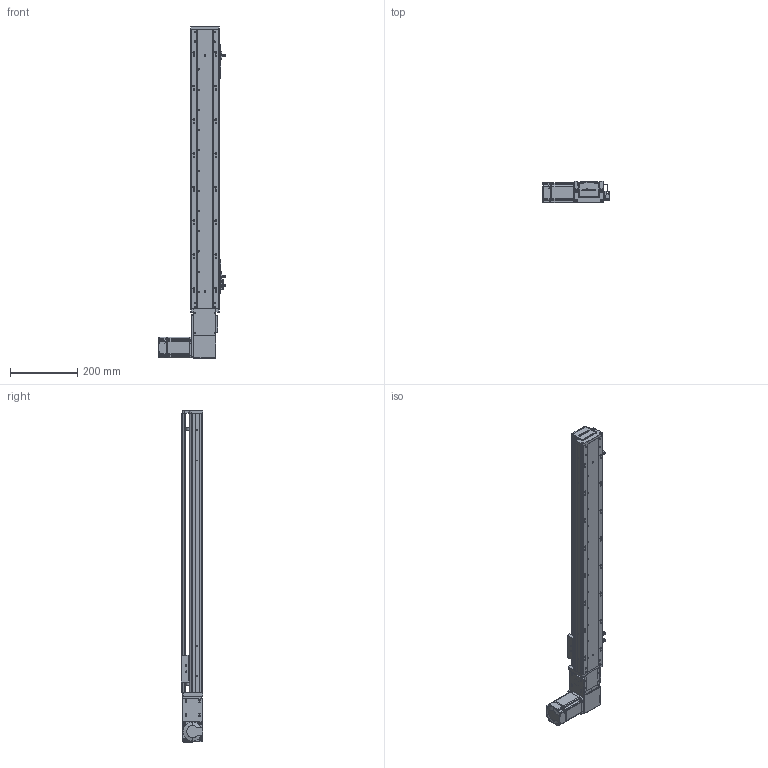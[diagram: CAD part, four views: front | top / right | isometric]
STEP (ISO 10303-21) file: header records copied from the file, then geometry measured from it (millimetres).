
FILE_DESCRIPTION (( 'STEP AP203' ), '1' );
FILE_NAME ('RY80-T-300-LK.SLDASM_650.step', '2021-03-01T01:58:24', ( '盈信电脑' ), ( '东莞市道滘镇水果街19号' ), 'SwSTEP 2.0', 'SolidWorks 2012', '' );
FILE_SCHEMA (( 'CONFIG_CONTROL_DESIGN' ));
Length unit declared in the file: millimetre
Products named in the file (19): RY80-T-M4蹟翐; RY80-T-300-LK.SLDASM_650; 1; 侂狟200W萇儂; RY80-T萇儂假蚾啣; RY80-T肮祭謫俋欶; RY80-T粣創揤踡輸; 滅袉蝶18-10; RY80-T翋肮祭謫裔啣; RY80-T-翋肮祭謫釱; RY80俋离覜茼え; RY80-T肮祭湍揤輸2; RY80-T肮祭湍揤輸1; RY80-T綴裔啣; 672嫖萇羲壽假蚾釱; RY80-T-300-LK倰第奻裔啣_650; 覜茼ん672; RY80-T-300-LK倰第菁釱_650; RY80-T肮祭謫臏賑輸
Assembly tree (24 placements, depth 3):
  RY80-T-300-LK.SLDASM_650
    RY80-T-300-LK倰第菁釱_650
    RY80-T肮祭謫臏賑輸
    RY80-T-300-LK倰第奻裔啣_650
    RY80-T綴裔啣
    672嫖萇羲壽假蚾釱  x2
    覜茼ん672  x3
    RY80俋离覜茼え
    RY80-T-翋肮祭謫釱
    RY80-T肮祭湍揤輸1
    RY80-T肮祭湍揤輸2
    RY80-T粣創揤踡輸
    RY80-T翋肮祭謫裔啣  x2
    滅袉蝶18-10  x2
    侂狟200W萇儂
      1
    RY80-T肮祭謫俋欶
    RY80-T萇儂假蚾啣
    RY80-T-M4蹟翐  x2
Bounding box: 198.7 x 65 x 985 mm (x, y, z)
Volume: 1722754.8 mm3; surface area: 705849.2 mm2
Topology: 23 solids, 23 shells, 2482 faces, 6858 edges, 4455 vertices
Faces by surface type: plane 1325, cylinder 951, cone 150, bspline 56
Entity records: 78397 total; most frequent: CARTESIAN_POINT 19351, ORIENTED_EDGE 12160, DIRECTION 11360, EDGE_CURVE 6080, VERTEX_POINT 3996, AXIS2_PLACEMENT_3D 3821, LINE 3718, VECTOR 3718
